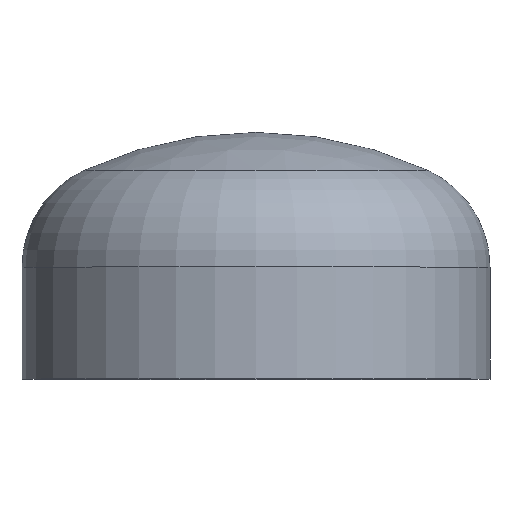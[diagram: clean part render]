
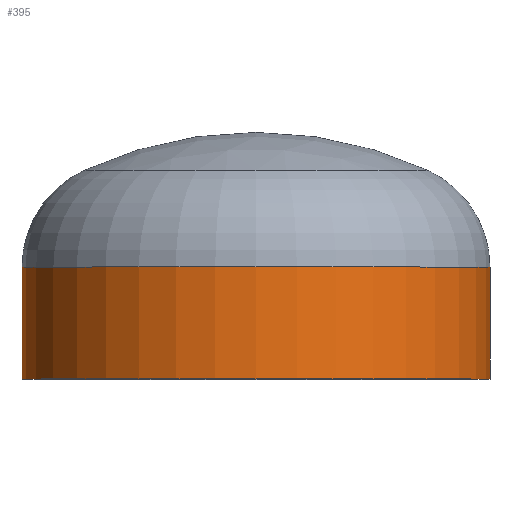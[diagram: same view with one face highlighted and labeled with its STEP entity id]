
A CAD part, top view. The second image highlights one B-rep face of the part: STEP entity #395.
In plain terms, the highlighted cylindrical face has radius 177.8 mm (diameter 355.6 mm), a partial arc.
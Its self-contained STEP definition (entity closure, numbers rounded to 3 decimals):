
#26 = ORIENTED_EDGE ( 'NONE', *, *, #335, .F. ) ;
#28 = VERTEX_POINT ( 'NONE', #362 ) ;
#31 = CARTESIAN_POINT ( 'NONE',  ( 0., 0., 0. ) ) ;
#45 = AXIS2_PLACEMENT_3D ( 'NONE', #31, #189, #191 ) ;
#48 = EDGE_LOOP ( 'NONE', ( #300, #58, #26, #133 ) ) ;
#58 = ORIENTED_EDGE ( 'NONE', *, *, #123, .T. ) ;
#74 = VERTEX_POINT ( 'NONE', #359 ) ;
#97 = AXIS2_PLACEMENT_3D ( 'NONE', #340, #339, #337 ) ;
#111 = CARTESIAN_POINT ( 'NONE',  ( 0., 0., 0. ) ) ;
#120 = EDGE_CURVE ( 'NONE', #374, #153, #403, .T. ) ;
#122 = EDGE_CURVE ( 'NONE', #374, #74, #361, .T. ) ;
#123 = EDGE_CURVE ( 'NONE', #74, #28, #168, .T. ) ;
#133 = ORIENTED_EDGE ( 'NONE', *, *, #120, .F. ) ;
#153 = VERTEX_POINT ( 'NONE', #206 ) ;
#157 = CARTESIAN_POINT ( 'NONE',  ( 177.8, 85., 0. ) ) ;
#165 = DIRECTION ( 'NONE',  ( 0., -1., 0. ) ) ;
#168 = LINE ( 'NONE', #207, #399 ) ;
#189 = DIRECTION ( 'NONE',  ( 0., -1., 0. ) ) ;
#191 = DIRECTION ( 'NONE',  ( 1., 0., 0. ) ) ;
#196 = CIRCLE ( 'NONE', #45, 177.8 ) ;
#206 = CARTESIAN_POINT ( 'NONE',  ( 177.8, 0., 0. ) ) ;
#207 = CARTESIAN_POINT ( 'NONE',  ( -177.8, 0., 0. ) ) ;
#283 = VECTOR ( 'NONE', #316, 1000. ) ;
#286 = FACE_OUTER_BOUND ( 'NONE', #48, .T. ) ;
#300 = ORIENTED_EDGE ( 'NONE', *, *, #122, .T. ) ;
#306 = AXIS2_PLACEMENT_3D ( 'NONE', #111, #165, #348 ) ;
#316 = DIRECTION ( 'NONE',  ( 0., -1., 0. ) ) ;
#317 = CARTESIAN_POINT ( 'NONE',  ( 177.8, 0., 0. ) ) ;
#329 = DIRECTION ( 'NONE',  ( 0., -1., 0. ) ) ;
#335 = EDGE_CURVE ( 'NONE', #153, #28, #196, .T. ) ;
#337 = DIRECTION ( 'NONE',  ( 1., 0., 0. ) ) ;
#339 = DIRECTION ( 'NONE',  ( 0., -1., 0. ) ) ;
#340 = CARTESIAN_POINT ( 'NONE',  ( 0., 85., 0. ) ) ;
#348 = DIRECTION ( 'NONE',  ( 1., 0., 0. ) ) ;
#359 = CARTESIAN_POINT ( 'NONE',  ( -177.8, 85., 0. ) ) ;
#361 = CIRCLE ( 'NONE', #97, 177.8 ) ;
#362 = CARTESIAN_POINT ( 'NONE',  ( -177.8, 0., 0. ) ) ;
#374 = VERTEX_POINT ( 'NONE', #157 ) ;
#395 = ADVANCED_FACE ( 'NONE', ( #286 ), #397, .T. ) ;
#397 = CYLINDRICAL_SURFACE ( 'NONE', #306, 177.8 ) ;
#399 = VECTOR ( 'NONE', #329, 1000. ) ;
#403 = LINE ( 'NONE', #317, #283 ) ;
